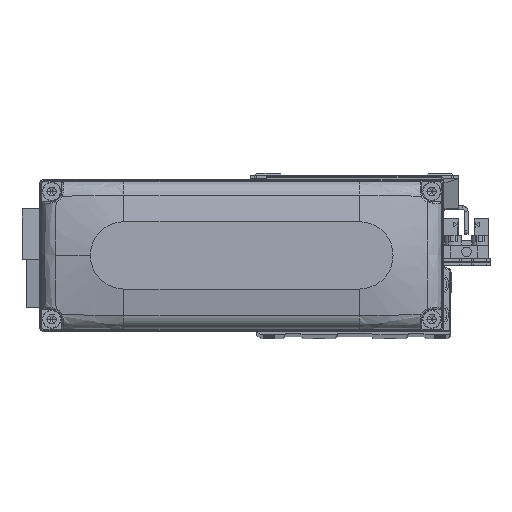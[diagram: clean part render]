
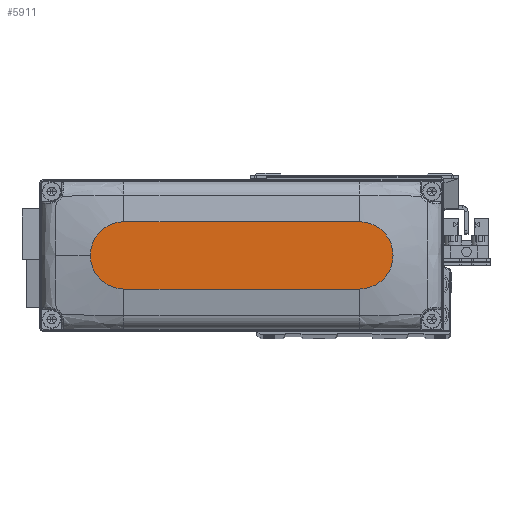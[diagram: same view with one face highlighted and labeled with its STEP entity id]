
A CAD part, top view. The second image highlights one B-rep face of the part: STEP entity #5911.
In plain terms, the highlighted planar face has unit normal (0, 0, 1).
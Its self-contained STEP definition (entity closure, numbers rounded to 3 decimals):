
#104 = DIRECTION ( 'NONE',  ( 0., 0., 1. ) ) ;
#151 = VERTEX_POINT ( 'NONE', #29182 ) ;
#377 = CARTESIAN_POINT ( 'NONE',  ( -35., -10., 28. ) ) ;
#699 = CARTESIAN_POINT ( 'NONE',  ( -35., 10., 28. ) ) ;
#1407 = ORIENTED_EDGE ( 'NONE', *, *, #32696, .T. ) ;
#2222 = VECTOR ( 'NONE', #13750, 1000. ) ;
#3380 = AXIS2_PLACEMENT_3D ( 'NONE', #30188, #104, #13495 ) ;
#3386 = FACE_OUTER_BOUND ( 'NONE', #4991, .T. ) ;
#4991 = EDGE_LOOP ( 'NONE', ( #39168, #1407, #23453, #25866, #7827 ) ) ;
#5580 = DIRECTION ( 'NONE',  ( 0., 0., 1. ) ) ;
#5874 = DIRECTION ( 'NONE',  ( 0., 0., 1. ) ) ;
#5911 = ADVANCED_FACE ( 'NONE', ( #3386 ), #16770, .T. ) ;
#7827 = ORIENTED_EDGE ( 'NONE', *, *, #42731, .T. ) ;
#9859 = DIRECTION ( 'NONE',  ( 1., 0., 0. ) ) ;
#11628 = CARTESIAN_POINT ( 'NONE',  ( 45., 0., 28. ) ) ;
#13086 = CIRCLE ( 'NONE', #18690, 10. ) ;
#13495 = DIRECTION ( 'NONE',  ( 1., 0., 0. ) ) ;
#13750 = DIRECTION ( 'NONE',  ( 1., 0., 0. ) ) ;
#14091 = DIRECTION ( 'NONE',  ( -1., 0., 0. ) ) ;
#14953 = AXIS2_PLACEMENT_3D ( 'NONE', #35692, #5580, #18972 ) ;
#15306 = CIRCLE ( 'NONE', #39898, 10. ) ;
#16770 = PLANE ( 'NONE',  #3380 ) ;
#16948 = VECTOR ( 'NONE', #14091, 1000. ) ;
#18690 = AXIS2_PLACEMENT_3D ( 'NONE', #26541, #39980, #9859 ) ;
#18972 = DIRECTION ( 'NONE',  ( 1., 0., 0. ) ) ;
#19234 = VERTEX_POINT ( 'NONE', #25855 ) ;
#19258 = DIRECTION ( 'NONE',  ( 1., 0., 0. ) ) ;
#21754 = VERTEX_POINT ( 'NONE', #11628 ) ;
#22472 = EDGE_CURVE ( 'NONE', #42569, #19234, #30793, .T. ) ;
#23453 = ORIENTED_EDGE ( 'NONE', *, *, #41170, .T. ) ;
#25855 = CARTESIAN_POINT ( 'NONE',  ( -35., 10., 28. ) ) ;
#25866 = ORIENTED_EDGE ( 'NONE', *, *, #34445, .T. ) ;
#26541 = CARTESIAN_POINT ( 'NONE',  ( -35., 0., 28. ) ) ;
#29182 = CARTESIAN_POINT ( 'NONE',  ( 35., -10., 28. ) ) ;
#30188 = CARTESIAN_POINT ( 'NONE',  ( 0., 0., 28. ) ) ;
#30469 = LINE ( 'NONE', #377, #2222 ) ;
#30793 = LINE ( 'NONE', #699, #16948 ) ;
#31524 = VERTEX_POINT ( 'NONE', #37563 ) ;
#32696 = EDGE_CURVE ( 'NONE', #19234, #31524, #13086, .T. ) ;
#33921 = CIRCLE ( 'NONE', #14953, 10. ) ;
#34445 = EDGE_CURVE ( 'NONE', #151, #21754, #15306, .T. ) ;
#35692 = CARTESIAN_POINT ( 'NONE',  ( 35., 0., 28. ) ) ;
#35980 = CARTESIAN_POINT ( 'NONE',  ( 35., 0., 28. ) ) ;
#37563 = CARTESIAN_POINT ( 'NONE',  ( -35., -10., 28. ) ) ;
#37719 = CARTESIAN_POINT ( 'NONE',  ( 35., 10., 28. ) ) ;
#39168 = ORIENTED_EDGE ( 'NONE', *, *, #22472, .T. ) ;
#39898 = AXIS2_PLACEMENT_3D ( 'NONE', #35980, #5874, #19258 ) ;
#39980 = DIRECTION ( 'NONE',  ( 0., 0., 1. ) ) ;
#41170 = EDGE_CURVE ( 'NONE', #31524, #151, #30469, .T. ) ;
#42569 = VERTEX_POINT ( 'NONE', #37719 ) ;
#42731 = EDGE_CURVE ( 'NONE', #21754, #42569, #33921, .T. ) ;
